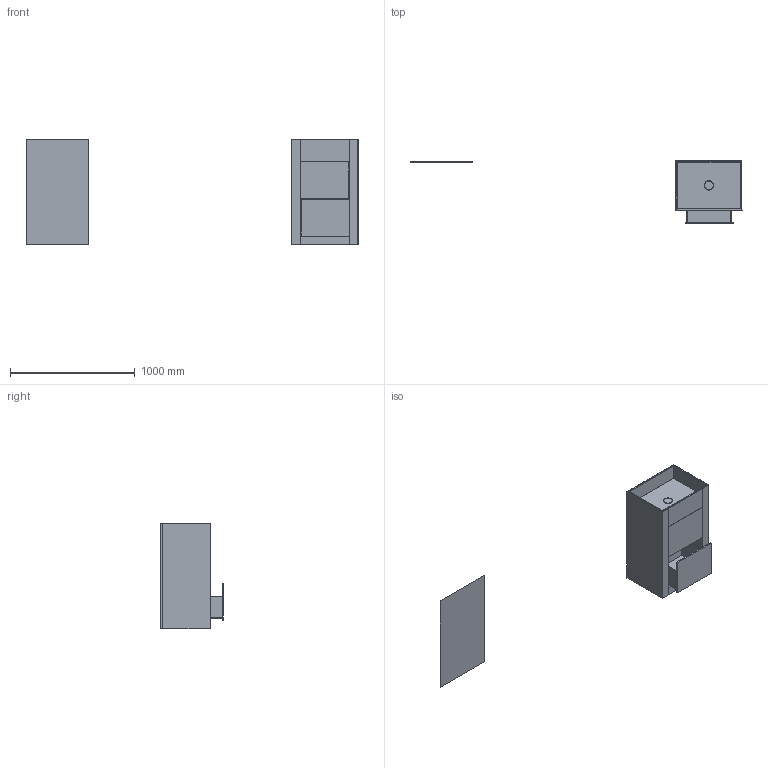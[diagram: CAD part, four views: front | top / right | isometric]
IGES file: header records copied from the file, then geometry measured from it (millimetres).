
Global section: file name: D:\Desktop\GIOVANNI\SCHEDE PRODOTTO\LAVABI\FREESTANDING\TOWER CUBE\3D\MOMA DESIGN_LAVABI FREESTANDING_TOWER CUBE 3.igs; native system: Rhinoceros ( Jan 17 2018 ); preprocessor: Trout Lake IGES 012 Jan 17 2018; date: 230530.131413; units: millimetre
Bounding box: 2664.6 x 505.27 x 850 mm (x, y, z)
Surface area: 4847575.3 mm2 (no closed solid volume)
Topology: 0 solids, 0 shells, 72 faces, 313 edges, 312 vertices
Faces by surface type: bspline 72
